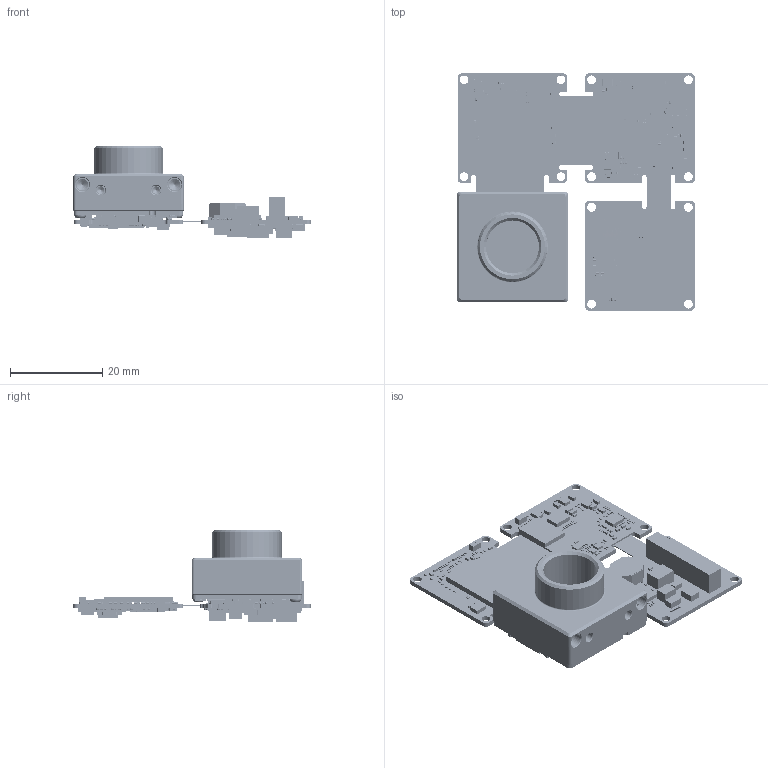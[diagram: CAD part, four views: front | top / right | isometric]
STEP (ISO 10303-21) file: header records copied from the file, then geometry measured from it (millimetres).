
FILE_DESCRIPTION (( 'STEP AP203' ), '1' );
FILE_NAME ('587-111-A.STEP', '2020-01-18T02:01:26', ( '' ), ( '' ), 'SwSTEP 2.0', 'SolidWorks 2017', '' );
FILE_SCHEMA (( 'CONFIG_CONTROL_DESIGN' ));
Length unit declared in the file: millimetre
Products named in the file (1): 587-111-A
Bounding box: 51.55 x 51.45 x 19.83 mm (x, y, z)
Surface area: 13791.2 mm2 (no closed solid volume)
Topology: 0 solids, 650 shells, 21548 faces, 50201 edges, 26297 vertices
Faces by surface type: plane 8899, cylinder 8217, bspline 4308, cone 118, torus 6
Entity records: 613831 total; most frequent: CARTESIAN_POINT 161225, DIRECTION 96097, ORIENTED_EDGE 91758, EDGE_CURVE 45883, AXIS2_PLACEMENT_3D 33523, VECTOR 29051, LINE 29051, VERTEX_POINT 26297
